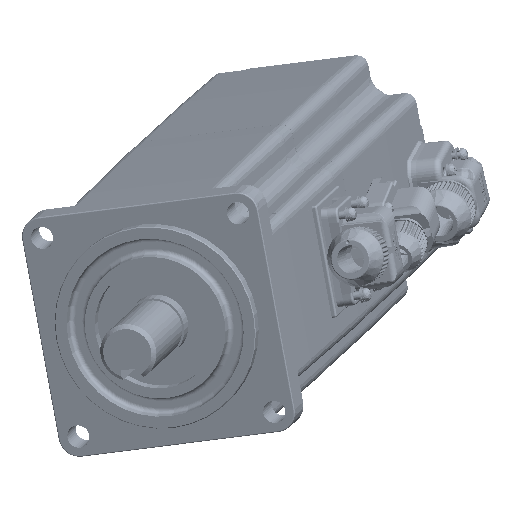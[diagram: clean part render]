
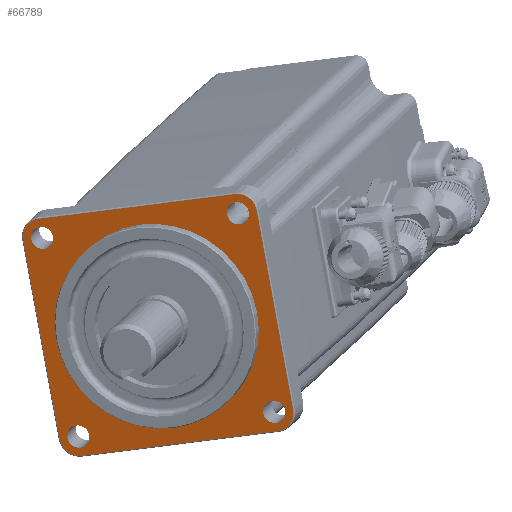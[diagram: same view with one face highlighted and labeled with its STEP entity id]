
A CAD part, front view. The second image highlights one B-rep face of the part: STEP entity #66789.
In plain terms, the highlighted planar face has unit normal (-0.248, -0.942, -0.228).
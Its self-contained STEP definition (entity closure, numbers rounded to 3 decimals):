
#4841=CARTESIAN_POINT('',(64.747,-20.942,
-52.347));
#4842=DIRECTION('',(-0.248,-0.942,-0.228));
#4843=DIRECTION('',(0.176,0.188,-0.966));
#4844=AXIS2_PLACEMENT_3D('',#4841,#4842,#4843);
#4846=CARTESIAN_POINT('',(17.404,-7.038,
-58.294));
#4847=DIRECTION('',(-0.248,-0.942,-0.228));
#4848=DIRECTION('',(-0.953,0.28,-0.12));
#4849=AXIS2_PLACEMENT_3D('',#4846,#4847,#4848);
#4851=CARTESIAN_POINT('',(8.633,-16.363,
-10.271));
#4852=DIRECTION('',(-0.248,-0.942,-0.228));
#4853=DIRECTION('',(-0.176,-0.188,0.966));
#4854=AXIS2_PLACEMENT_3D('',#4851,#4852,#4853);
#4856=CARTESIAN_POINT('',(55.976,-30.267,
-4.324));
#4857=DIRECTION('',(-0.248,-0.942,-0.228));
#4858=DIRECTION('',(0.953,-0.28,0.12));
#4859=AXIS2_PLACEMENT_3D('',#4856,#4857,#4858);
#4861=CARTESIAN_POINT('',(36.69,-18.652,
-31.309));
#4862=DIRECTION('',(0.248,0.942,0.228));
#4863=DIRECTION('',(0.176,0.188,-0.966));
#4864=AXIS2_PLACEMENT_3D('',#4861,#4862,#4863);
#4866=CARTESIAN_POINT('',(36.69,-18.652,
-31.309));
#4867=DIRECTION('',(0.248,0.942,0.228));
#4868=DIRECTION('',(-0.176,-0.188,0.966));
#4869=AXIS2_PLACEMENT_3D('',#4866,#4867,#4868);
#4871=CARTESIAN_POINT('',(55.899,-30.219,
-4.435));
#4872=DIRECTION('',(0.248,0.942,0.228));
#4873=DIRECTION('',(-0.953,0.28,-0.12));
#4874=AXIS2_PLACEMENT_3D('',#4871,#4872,#4873);
#4876=CARTESIAN_POINT('',(55.899,-30.219,
-4.435));
#4877=DIRECTION('',(0.248,0.942,0.228));
#4878=DIRECTION('',(0.953,-0.28,0.12));
#4879=AXIS2_PLACEMENT_3D('',#4876,#4877,#4878);
#4881=CARTESIAN_POINT('',(64.634,-20.933,
-52.26));
#4882=DIRECTION('',(0.248,0.942,0.228));
#4883=DIRECTION('',(-0.953,0.28,-0.12));
#4884=AXIS2_PLACEMENT_3D('',#4881,#4882,#4883);
#4886=CARTESIAN_POINT('',(64.634,-20.933,
-52.26));
#4887=DIRECTION('',(0.248,0.942,0.228));
#4888=DIRECTION('',(0.953,-0.28,0.12));
#4889=AXIS2_PLACEMENT_3D('',#4886,#4887,#4888);
#4891=CARTESIAN_POINT('',(17.481,-7.085,
-58.183));
#4892=DIRECTION('',(0.248,0.942,0.228));
#4893=DIRECTION('',(-0.953,0.28,-0.12));
#4894=AXIS2_PLACEMENT_3D('',#4891,#4892,#4893);
#4896=CARTESIAN_POINT('',(17.481,-7.085,
-58.183));
#4897=DIRECTION('',(0.248,0.942,0.228));
#4898=DIRECTION('',(0.953,-0.28,0.12));
#4899=AXIS2_PLACEMENT_3D('',#4896,#4897,#4898);
#4901=CARTESIAN_POINT('',(8.746,-16.371,
-10.358));
#4902=DIRECTION('',(0.248,0.942,0.228));
#4903=DIRECTION('',(-0.953,0.28,-0.12));
#4904=AXIS2_PLACEMENT_3D('',#4901,#4902,#4903);
#4906=CARTESIAN_POINT('',(8.746,-16.371,
-10.358));
#4907=DIRECTION('',(0.248,0.942,0.228));
#4908=DIRECTION('',(0.953,-0.28,0.12));
#4909=AXIS2_PLACEMENT_3D('',#4906,#4907,#4908);
#4911=DIRECTION('',(0.953,-0.28,0.12));
#4912=VECTOR('',#4911,49.7);
#4913=CARTESIAN_POINT('',(18.226,-6.164,
-62.792));
#4914=LINE('',#4913,#4912);
#5140=DIRECTION('',(-0.953,0.28,-0.12));
#5141=VECTOR('',#5140,49.7);
#5142=CARTESIAN_POINT('',(55.155,-31.14,
0.174));
#5143=LINE('',#5142,#5141);
#5163=DIRECTION('',(0.176,0.188,-0.966));
#5164=VECTOR('',#5163,49.7);
#5165=CARTESIAN_POINT('',(4.198,-15.06,
-10.828));
#5166=LINE('',#5165,#5164);
#5246=DIRECTION('',(-0.176,-0.188,0.966));
#5247=VECTOR('',#5246,49.7);
#5248=CARTESIAN_POINT('',(69.182,-22.244,
-51.79));
#5249=LINE('',#5248,#5247);
#48981=CARTESIAN_POINT('',(65.569,-20.068,
-56.845));
#48982=CARTESIAN_POINT('',(69.182,-22.244,
-51.79));
#48983=VERTEX_POINT('',#48981);
#48984=VERTEX_POINT('',#48982);
#48985=CARTESIAN_POINT('',(18.226,-6.164,
-62.792));
#48986=VERTEX_POINT('',#48985);
#48987=CARTESIAN_POINT('',(12.97,-5.735,
-58.851));
#48988=VERTEX_POINT('',#48987);
#48989=CARTESIAN_POINT('',(4.198,-15.06,
-10.828));
#48990=VERTEX_POINT('',#48989);
#48991=CARTESIAN_POINT('',(7.811,-17.236,
-5.773));
#48992=VERTEX_POINT('',#48991);
#48993=CARTESIAN_POINT('',(55.155,-31.14,
0.174));
#48994=VERTEX_POINT('',#48993);
#48995=CARTESIAN_POINT('',(60.411,-31.569,
-3.767));
#48996=VERTEX_POINT('',#48995);
#48997=CARTESIAN_POINT('',(41.102,-13.962,
-55.465));
#48998=CARTESIAN_POINT('',(32.278,-23.343,
-7.152));
#48999=VERTEX_POINT('',#48997);
#49000=VERTEX_POINT('',#48998);
#49001=CARTESIAN_POINT('',(53.279,-29.45,
-4.764));
#49002=CARTESIAN_POINT('',(58.519,-30.989,
-4.106));
#49003=VERTEX_POINT('',#49001);
#49004=VERTEX_POINT('',#49002);
#49005=CARTESIAN_POINT('',(62.014,-20.164,
-52.589));
#49006=CARTESIAN_POINT('',(67.254,-21.702,
-51.93));
#49007=VERTEX_POINT('',#49005);
#49008=VERTEX_POINT('',#49006);
#49009=CARTESIAN_POINT('',(14.862,-6.316,
-58.512));
#49010=CARTESIAN_POINT('',(20.101,-7.854,
-57.854));
#49011=VERTEX_POINT('',#49009);
#49012=VERTEX_POINT('',#49010);
#49013=CARTESIAN_POINT('',(6.127,-15.602,
-10.687));
#49014=CARTESIAN_POINT('',(11.366,-17.141,
-10.029));
#49015=VERTEX_POINT('',#49013);
#49016=VERTEX_POINT('',#49014);
#66737=CARTESIAN_POINT('',(36.69,-18.652,
-31.309));
#66738=DIRECTION('',(0.248,0.942,0.228));
#66739=DIRECTION('',(0.176,0.188,-0.966));
#66740=AXIS2_PLACEMENT_3D('',#66737,#66738,#66739);
#66741=PLANE('',#66740);
#66742=ORIENTED_EDGE('',*,*,#66727,.F.);
#66744=ORIENTED_EDGE('',*,*,#66743,.F.);
#66746=ORIENTED_EDGE('',*,*,#66745,.F.);
#66748=ORIENTED_EDGE('',*,*,#66747,.F.);
#66750=ORIENTED_EDGE('',*,*,#66749,.F.);
#66752=ORIENTED_EDGE('',*,*,#66751,.F.);
#66754=ORIENTED_EDGE('',*,*,#66753,.F.);
#66756=ORIENTED_EDGE('',*,*,#66755,.F.);
#66757=EDGE_LOOP('',(#66742,#66744,#66746,#66748,#66750,#66752,#66754,#66756));
#66758=FACE_OUTER_BOUND('',#66757,.F.);
#66760=ORIENTED_EDGE('',*,*,#66759,.F.);
#66762=ORIENTED_EDGE('',*,*,#66761,.F.);
#66763=EDGE_LOOP('',(#66760,#66762));
#66764=FACE_BOUND('',#66763,.F.);
#66766=ORIENTED_EDGE('',*,*,#66765,.F.);
#66768=ORIENTED_EDGE('',*,*,#66767,.F.);
#66769=EDGE_LOOP('',(#66766,#66768));
#66770=FACE_BOUND('',#66769,.F.);
#66772=ORIENTED_EDGE('',*,*,#66771,.F.);
#66774=ORIENTED_EDGE('',*,*,#66773,.F.);
#66775=EDGE_LOOP('',(#66772,#66774));
#66776=FACE_BOUND('',#66775,.F.);
#66778=ORIENTED_EDGE('',*,*,#66777,.F.);
#66780=ORIENTED_EDGE('',*,*,#66779,.F.);
#66781=EDGE_LOOP('',(#66778,#66780));
#66782=FACE_BOUND('',#66781,.F.);
#66784=ORIENTED_EDGE('',*,*,#66783,.F.);
#66786=ORIENTED_EDGE('',*,*,#66785,.F.);
#66787=EDGE_LOOP('',(#66784,#66786));
#66788=FACE_BOUND('',#66787,.F.);
#4845=CIRCLE('',#4844,4.655);
#4850=CIRCLE('',#4849,4.655);
#4855=CIRCLE('',#4854,4.655);
#4860=CIRCLE('',#4859,4.655);
#4865=CIRCLE('',#4864,25.);
#4870=CIRCLE('',#4869,25.);
#4875=CIRCLE('',#4874,2.75);
#4880=CIRCLE('',#4879,2.75);
#4885=CIRCLE('',#4884,2.75);
#4890=CIRCLE('',#4889,2.75);
#4895=CIRCLE('',#4894,2.75);
#4900=CIRCLE('',#4899,2.75);
#4905=CIRCLE('',#4904,2.75);
#4910=CIRCLE('',#4909,2.75);
#66727=EDGE_CURVE('',#48983,#48984,#4845,.T.);
#66743=EDGE_CURVE('',#48986,#48983,#4914,.T.);
#66745=EDGE_CURVE('',#48988,#48986,#4850,.T.);
#66747=EDGE_CURVE('',#48990,#48988,#5166,.T.);
#66749=EDGE_CURVE('',#48992,#48990,#4855,.T.);
#66751=EDGE_CURVE('',#48994,#48992,#5143,.T.);
#66753=EDGE_CURVE('',#48996,#48994,#4860,.T.);
#66755=EDGE_CURVE('',#48984,#48996,#5249,.T.);
#66759=EDGE_CURVE('',#48999,#49000,#4865,.T.);
#66761=EDGE_CURVE('',#49000,#48999,#4870,.T.);
#66765=EDGE_CURVE('',#49003,#49004,#4875,.T.);
#66767=EDGE_CURVE('',#49004,#49003,#4880,.T.);
#66771=EDGE_CURVE('',#49007,#49008,#4885,.T.);
#66773=EDGE_CURVE('',#49008,#49007,#4890,.T.);
#66777=EDGE_CURVE('',#49011,#49012,#4895,.T.);
#66779=EDGE_CURVE('',#49012,#49011,#4900,.T.);
#66783=EDGE_CURVE('',#49015,#49016,#4905,.T.);
#66785=EDGE_CURVE('',#49016,#49015,#4910,.T.);
#66789=ADVANCED_FACE('',(#66758,#66764,#66770,#66776,#66782,#66788),#66741,.F.);
